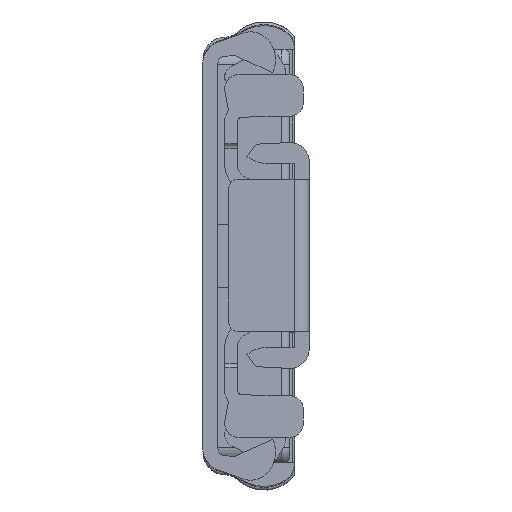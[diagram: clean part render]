
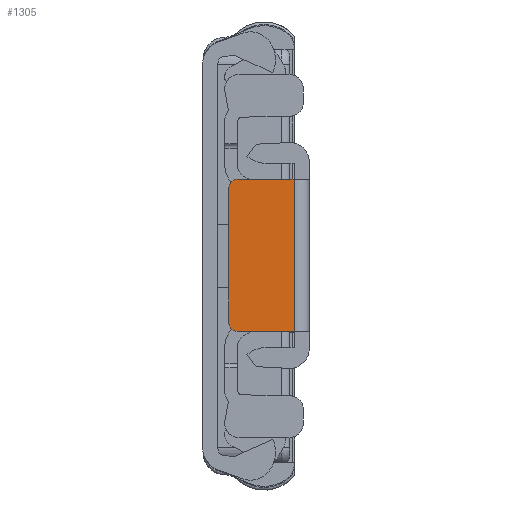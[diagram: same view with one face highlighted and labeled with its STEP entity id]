
A CAD part, front view. The second image highlights one B-rep face of the part: STEP entity #1305.
In plain terms, the highlighted planar face has unit normal (0, -1, 0).
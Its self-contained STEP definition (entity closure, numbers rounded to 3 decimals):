
#1305 = ADVANCED_FACE( '', ( #2809 ), #2810, .T. );
#2809 = FACE_OUTER_BOUND( '', #4593, .T. );
#2810 = PLANE( '', #4594 );
#4593 = EDGE_LOOP( '', ( #8183, #8184, #8185, #8186, #8187, #8188 ) );
#4594 = AXIS2_PLACEMENT_3D( '', #8189, #8190, #8191 );
#8183 = ORIENTED_EDGE( '', *, *, #11435, .T. );
#8184 = ORIENTED_EDGE( '', *, *, #10782, .T. );
#8185 = ORIENTED_EDGE( '', *, *, #11476, .T. );
#8186 = ORIENTED_EDGE( '', *, *, #11675, .T. );
#8187 = ORIENTED_EDGE( '', *, *, #11910, .T. );
#8188 = ORIENTED_EDGE( '', *, *, #11911, .T. );
#8189 = CARTESIAN_POINT( '', ( -9., -325.302, -2.366 ) );
#8190 = DIRECTION( '', ( 0., -1., 0. ) );
#8191 = DIRECTION( '', ( 0., 0., -1. ) );
#10782 = EDGE_CURVE( '', #13038, #13039, #13040, .T. );
#11435 = EDGE_CURVE( '', #14115, #13038, #14116, .T. );
#11476 = EDGE_CURVE( '', #13039, #14173, #14174, .T. );
#11675 = EDGE_CURVE( '', #14173, #14461, #14463, .T. );
#11910 = EDGE_CURVE( '', #14461, #14785, #14786, .T. );
#11911 = EDGE_CURVE( '', #14785, #14115, #14787, .T. );
#13038 = VERTEX_POINT( '', #16222 );
#13039 = VERTEX_POINT( '', #16223 );
#13040 = CIRCLE( '', #16224, 1. );
#14115 = VERTEX_POINT( '', #17771 );
#14116 = LINE( '', #17772, #17773 );
#14173 = VERTEX_POINT( '', #17851 );
#14174 = LINE( '', #17852, #17853 );
#14461 = VERTEX_POINT( '', #18267 );
#14463 = LINE( '', #18269, #18270 );
#14785 = VERTEX_POINT( '', #18725 );
#14786 = LINE( '', #18726, #18727 );
#14787 = CIRCLE( '', #18728, 1. );
#16222 = CARTESIAN_POINT( '', ( -8., -325.302, 5.8 ) );
#16223 = CARTESIAN_POINT( '', ( -9., -325.302, 4.8 ) );
#16224 = AXIS2_PLACEMENT_3D( '', #19980, #19981, #19982 );
#17771 = CARTESIAN_POINT( '', ( 8., -325.302, 5.8 ) );
#17772 = CARTESIAN_POINT( '', ( 9., -325.302, 5.8 ) );
#17773 = VECTOR( '', #20887, 1000. );
#17851 = CARTESIAN_POINT( '', ( -9., -325.302, -1.898 ) );
#17852 = CARTESIAN_POINT( '', ( -9., -325.302, -2.366 ) );
#17853 = VECTOR( '', #20933, 1000. );
#18267 = CARTESIAN_POINT( '', ( 9., -325.302, -1.898 ) );
#18269 = CARTESIAN_POINT( '', ( -9., -325.302, -1.898 ) );
#18270 = VECTOR( '', #21158, 1000. );
#18725 = CARTESIAN_POINT( '', ( 9., -325.302, 4.8 ) );
#18726 = CARTESIAN_POINT( '', ( 9., -325.302, -2.366 ) );
#18727 = VECTOR( '', #21438, 1000. );
#18728 = AXIS2_PLACEMENT_3D( '', #21439, #21440, #21441 );
#19980 = CARTESIAN_POINT( '', ( -8., -325.302, 4.8 ) );
#19981 = DIRECTION( '', ( 0., -1., 0. ) );
#19982 = DIRECTION( '', ( 0., 0., -1. ) );
#20887 = DIRECTION( '', ( -1., 0., 0. ) );
#20933 = DIRECTION( '', ( 0., 0., -1. ) );
#21158 = DIRECTION( '', ( 1., 0., 0. ) );
#21438 = DIRECTION( '', ( 0., 0., 1. ) );
#21439 = CARTESIAN_POINT( '', ( 8., -325.302, 4.8 ) );
#21440 = DIRECTION( '', ( 0., -1., 0. ) );
#21441 = DIRECTION( '', ( 0., 0., -1. ) );
